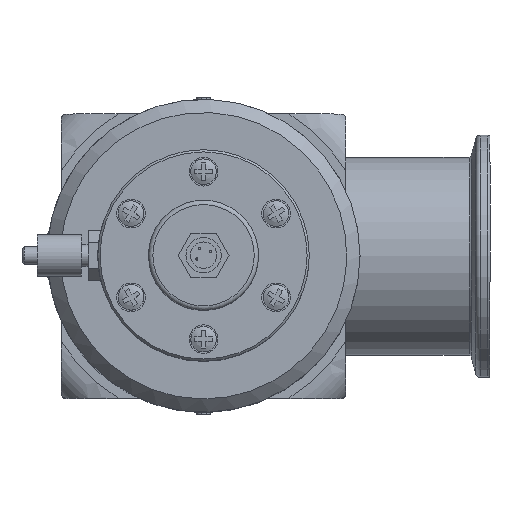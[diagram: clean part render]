
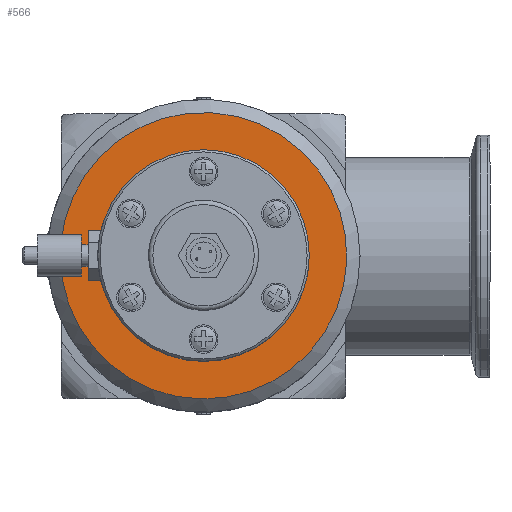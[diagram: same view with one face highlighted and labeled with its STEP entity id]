
A CAD part, top view. The second image highlights one B-rep face of the part: STEP entity #566.
In plain terms, the highlighted planar face has unit normal (0, 0, 1).
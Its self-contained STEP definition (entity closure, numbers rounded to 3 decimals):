
#566 = ADVANCED_FACE( '', ( #1173, #1174 ), #1175, .T. );
#1173 = FACE_OUTER_BOUND( '', #1957, .T. );
#1174 = FACE_BOUND( '', #1958, .T. );
#1175 = PLANE( '', #1959 );
#1957 = EDGE_LOOP( '', ( #2910 ) );
#1958 = EDGE_LOOP( '', ( #2911 ) );
#1959 = AXIS2_PLACEMENT_3D( '', #2912, #2913, #2914 );
#2910 = ORIENTED_EDGE( '', *, *, #4164, .T. );
#2911 = ORIENTED_EDGE( '', *, *, #4165, .T. );
#2912 = CARTESIAN_POINT( '', ( -35.5, 0., 41.5 ) );
#2913 = DIRECTION( '', ( 0., 0., 1. ) );
#2914 = DIRECTION( '', ( 1., 0., 0. ) );
#4164 = EDGE_CURVE( '', #4830, #4830, #4831, .T. );
#4165 = EDGE_CURVE( '', #4832, #4832, #4833, .T. );
#4830 = VERTEX_POINT( '', #6040 );
#4831 = CIRCLE( '', #6041, 32.5 );
#4832 = VERTEX_POINT( '', #6042 );
#4833 = CIRCLE( '', #6043, 8.456 );
#6040 = CARTESIAN_POINT( '', ( 32.5, 0., 41.5 ) );
#6041 = AXIS2_PLACEMENT_3D( '', #7282, #7283, #7284 );
#6042 = CARTESIAN_POINT( '', ( -8.456, 0., 41.5 ) );
#6043 = AXIS2_PLACEMENT_3D( '', #7285, #7286, #7287 );
#7282 = CARTESIAN_POINT( '', ( 0., 0., 41.5 ) );
#7283 = DIRECTION( '', ( 0., 0., 1. ) );
#7284 = DIRECTION( '', ( 1., 0., 0. ) );
#7285 = CARTESIAN_POINT( '', ( 0., 0., 41.5 ) );
#7286 = DIRECTION( '', ( 0., 0., -1. ) );
#7287 = DIRECTION( '', ( -1., 0., 0. ) );
